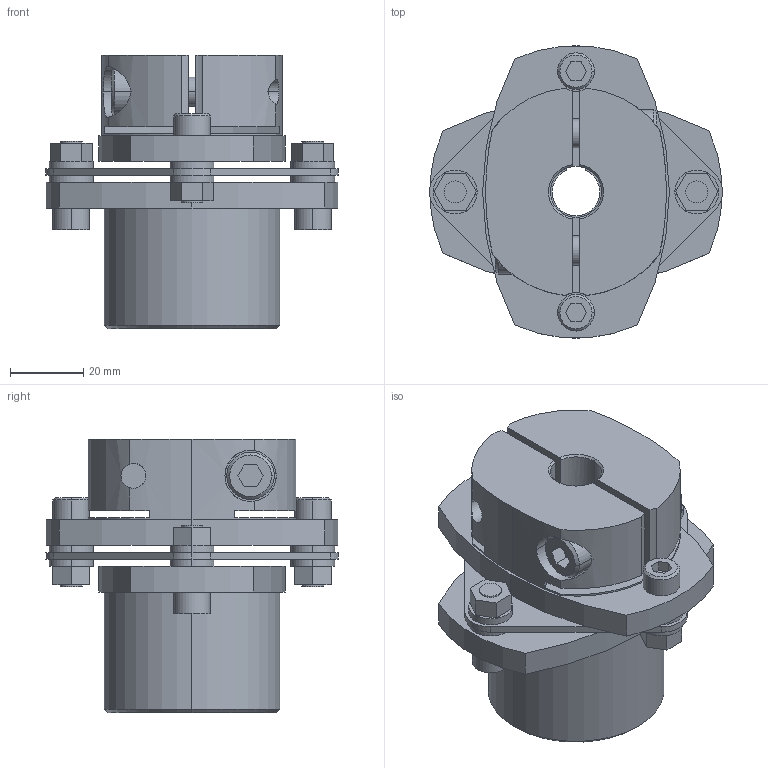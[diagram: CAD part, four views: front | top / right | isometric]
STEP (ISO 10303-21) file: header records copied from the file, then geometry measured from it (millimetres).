
FILE_DESCRIPTION((''),'2;1');
FILE_NAME('LCS-80M-16L亊14B.stp','2015-10-27T19:13:13',(''),(''),'AutoCAD STEP 2000i','AutoCAD 2000i',', , ');
FILE_SCHEMA(('CONFIG_CONTROL_DESIGN'));
Length unit declared in the file: millimetre
Products named in the file (6): LCS-80M-16L×15B; 忣兜1; LC80M-L016; LC80-B015-1; LC80-B015; LCS80-ITA
Assembly tree (5 placements, depth 2):
  LCS-80M-16L×15B
    忣兜1
    LC80M-L016
    LC80-B015-1
    LC80-B015
    LCS80-ITA
Bounding box: 80 x 79.95 x 74.75 mm (x, y, z)
Volume: 147985.1 mm3; surface area: 42196.1 mm2
Topology: 1 solids, 1 shells, 230 faces, 580 edges, 382 vertices
Faces by surface type: plane 115, cylinder 96, cone 19
Entity records: 7413 total; most frequent: CARTESIAN_POINT 1514, DIRECTION 1252, ORIENTED_EDGE 1160, EDGE_CURVE 580, AXIS2_PLACEMENT_3D 458, VERTEX_POINT 382, VECTOR 336, LINE 336
